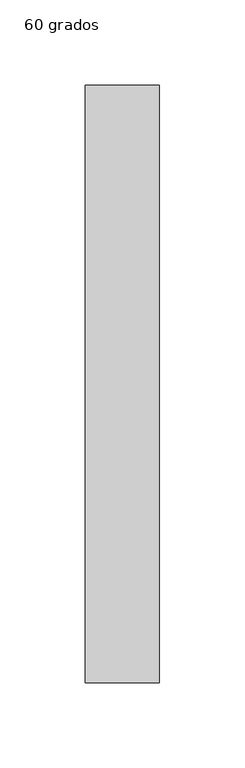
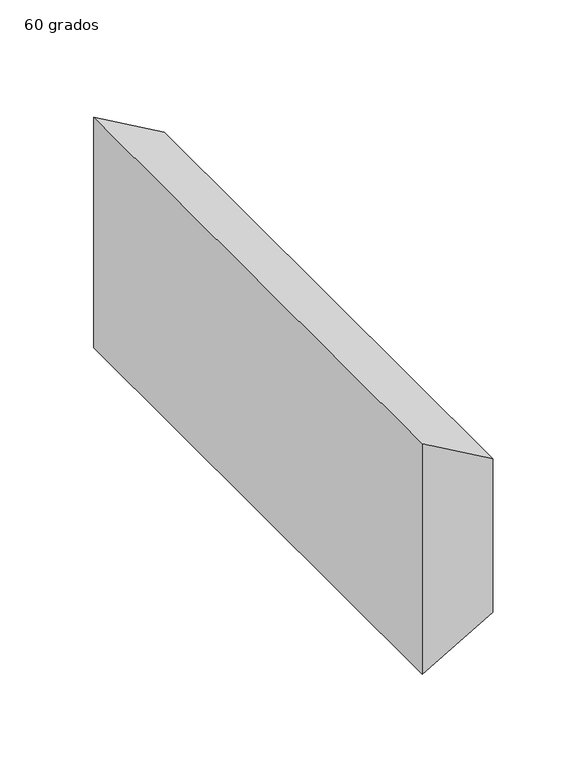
"""IFC4 building model written with IfcOpenShell, lengths in millimetres: duct fitting geometry, M_Transición rectangular - Ángulo : 60 grados."""

from ifc_helpers import new_model, si_unit, frame, origin, place, context, project, spatial, polyline, outline, extrude, source, transform, mapped, element, save


def duct_fitting_60_grados_a678f770(model_context):
    return source(origin(), model_context, "Body", "SweptSolid", [
        extrude(outline(polyline([(75.0, 0.0), (-75.0, 0.0), (-50.0, 43.3012702), (50.0, 43.3012702), (75.0, 0.0)])), frame((0.0, -175.0, 0.0), z_axis=(0.0, 1.0, 0.0), x_axis=(0.0, 0.0, 1.0)), (0.0, 0.0, 1.0), 350.0),
    ])


if __name__ == "__main__":
    model = new_model("IFC4")
    model_context = context("Model", 3, world=origin())
    ifc_project = project(units=[si_unit("LENGTHUNIT", "METRE", prefix="MILLI")], contexts=[model_context])
    site = spatial("IfcSite", under=ifc_project)
    building = spatial("IfcBuilding", under=site)
    placement = place(None, origin())
    duct_fitting_60_grados_shape = duct_fitting_60_grados_a678f770(model_context)
    element("IfcDuctFitting", 1, ObjectType="M_Transición rectangular - Ángulo : 60 grados", at=placement, inside=building, context=model_context, shape_type="MappedRepresentation", body=[
        mapped(duct_fitting_60_grados_shape, transform((0.0, 0.0, 0.0), x_axis=(1.0, 0.0, 0.0), y_axis=(0.0, 1.0, 0.0), z_axis=(0.0, 0.0, 1.0))),
    ])
    save(model, "model.ifc")
